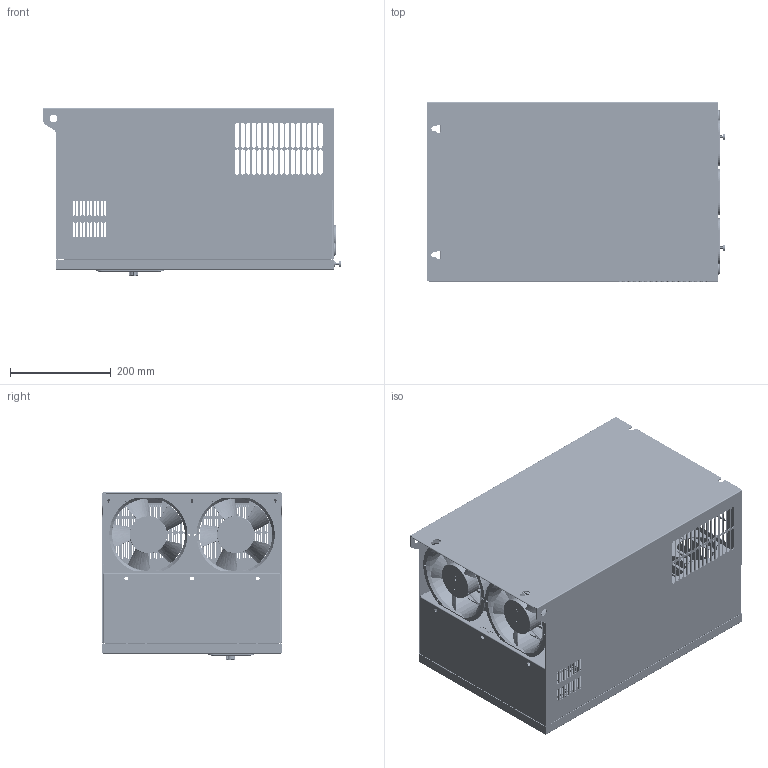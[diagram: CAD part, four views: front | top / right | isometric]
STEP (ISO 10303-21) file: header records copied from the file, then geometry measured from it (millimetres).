
FILE_DESCRIPTION((''),'2;1');
FILE_NAME('93-110_G3_ASM_ASM','2022-07-19T',('Administrator'),(''),'PRO/ENGINEER BY PARAMETRIC TECHNOLOGY CORPORATION, 2010280','PRO/ENGINEER BY PARAMETRIC TECHNOLOGY CORPORATION, 2010280','');
FILE_SCHEMA(('AUTOMOTIVE_DESIGN_CC2 { 1 2 10303 214 -1 1 5 2 }'));
Products named in the file (120): MANIFOLD_SOLID_BREP_25751_1; MANIFOLD_SOLID_BREP_26008_1; MANIFOLD_SOLID_BREP_26265_1; MANIFOLD_SOLID_BREP_26522_1; MANIFOLD_SOLID_BREP_26779_1; 5G3QR3F001_8_ASM_1_ASM; MANIFOLD_SOLID_BREP_30524_1; MANIFOLD_SOLID_BREP_30781_1; MANIFOLD_SOLID_BREP_31038_1; _PRT0001_14_1; PRT0001_14_ASM_1_ASM; 5G3QR3F001_ASM_9_ASM_1_ASM; MANIFOLD_SOLID_BREP_42937_1; MANIFOLD_SOLID_BREP_43451_1; MANIFOLD_SOLID_BREP_43965_1; MANIFOLD_SOLID_BREP_44222_1; MANIFOLD_SOLID_BREP_44479_1; MANIFOLD_SOLID_BREP_44736_1; MANIFOLD_SOLID_BREP_44993_1; MANIFOLD_SOLID_BREP_45250_1; MANIFOLD_SOLID_BREP_45507_1; MANIFOLD_SOLID_BREP_45764_1; MANIFOLD_SOLID_BREP_46021_1; MANIFOLD_SOLID_BREP_46278_1; MANIFOLD_SOLID_BREP_46535_1; MANIFOLD_SOLID_BREP_46792_1; MANIFOLD_SOLID_BREP_47049_1; MANIFOLD_SOLID_BREP_47306_1; MANIFOLD_SOLID_BREP_47563_1; MANIFOLD_SOLID_BREP_47820_1; MANIFOLD_SOLID_BREP_48077_1; MANIFOLD_SOLID_BREP_48334_1; _5G3QR3F002_4_1; 5G3QR3F002_4_ASM_1_ASM; 5G3QR3F002_ASM_3_ASM_1_ASM; MANIFOLD_SOLID_BREP_52230_1; MANIFOLD_SOLID_BREP_52487_1; MANIFOLD_SOLID_BREP_52744_1; MANIFOLD_SOLID_BREP_53001_1; MANIFOLD_SOLID_BREP_53258_1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
Assembly tree (125 placements, depth 7):
  93-110_G3_ASM_ASM
    93-110KW_3D_ASM_21_ASM_1_ASM
      5G3QR1F001_ASM_8_ASM_1_ASM
        5G3QR2F001_ASM_9_ASM_1_ASM
          5G3QR3F001_ASM_9_ASM_1_ASM
            5G3QR3F001_8_ASM_1_ASM
              MANIFOLD_SOLID_BREP_25751_1
              MANIFOLD_SOLID_BREP_26008_1
              MANIFOLD_SOLID_BREP_26265_1
              MANIFOLD_SOLID_BREP_26522_1
              MANIFOLD_SOLID_BREP_26779_1
            PRT0001_14_ASM_1_ASM
              MANIFOLD_SOLID_BREP_30524_1
              MANIFOLD_SOLID_BREP_30781_1
              MANIFOLD_SOLID_BREP_31038_1
              _PRT0001_14_1
          5G3QR3F002_ASM_3_ASM_1_ASM
            5G3QR3F002_4_ASM_1_ASM
              MANIFOLD_SOLID_BREP_42937_1
              MANIFOLD_SOLID_BREP_43451_1
              MANIFOLD_SOLID_BREP_43965_1
              MANIFOLD_SOLID_BREP_44222_1
              MANIFOLD_SOLID_BREP_44479_1
              MANIFOLD_SOLID_BREP_44736_1
              MANIFOLD_SOLID_BREP_44993_1
              MANIFOLD_SOLID_BREP_45250_1
              MANIFOLD_SOLID_BREP_45507_1
              MANIFOLD_SOLID_BREP_45764_1
              MANIFOLD_SOLID_BREP_46021_1
              MANIFOLD_SOLID_BREP_46278_1
              MANIFOLD_SOLID_BREP_46535_1
              MANIFOLD_SOLID_BREP_46792_1
              MANIFOLD_SOLID_BREP_47049_1
              MANIFOLD_SOLID_BREP_47306_1
              MANIFOLD_SOLID_BREP_47563_1
              MANIFOLD_SOLID_BREP_47820_1
              MANIFOLD_SOLID_BREP_48077_1
              MANIFOLD_SOLID_BREP_48334_1
              _5G3QR3F002_4_1
          5G3QR3F003_4_ASM_1_ASM
            MANIFOLD_SOLID_BREP_52230_1
            MANIFOLD_SOLID_BREP_52487_1
            MANIFOLD_SOLID_BREP_52744_1
            MANIFOLD_SOLID_BREP_53001_1
            MANIFOLD_SOLID_BREP_53258_1
            MANIFOLD_SOLID_BREP_53515_1
            MANIFOLD_SOLID_BREP_53772_1
            MANIFOLD_SOLID_BREP_54029_1
            _5G3QR3F003_4_1
          5G3QR3F006_6_1  x2
          5G3QR3F008_3_ASM_1_ASM
            MANIFOLD_SOLID_BREP_68222_1
            MANIFOLD_SOLID_BREP_68479_1
            MANIFOLD_SOLID_BREP_68736_1
            MANIFOLD_SOLID_BREP_68993_1
            _5G3QR3F008_3_1
          _5G3QR2F001_ASM_9_1
        5G3QR2F002_ASM_3_ASM_1_ASM
          5G3QR3F011_9_ASM_1_ASM
            MANIFOLD_SOLID_BREP_80267_1
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Bounding box: 591.9 x 355 x 331.8 mm (x, y, z)
Volume: 6374011 mm3; surface area: 7084031.9 mm2
Topology: 90 solids, 133 shells, 5210 faces, 15263 edges, 11533 vertices
Faces by surface type: plane 2824, cylinder 1866, extrusion 282, bspline 114, torus 67, cone 31, sphere 24, revolution 2
Entity records: 188469 total; most frequent: CARTESIAN_POINT 36675, DIRECTION 27034, ORIENTED_EDGE 24578, EDGE_CURVE 12380, AXIS2_PLACEMENT_3D 9156, VECTOR 8720, LINE 8577, VERTEX_POINT 8003
